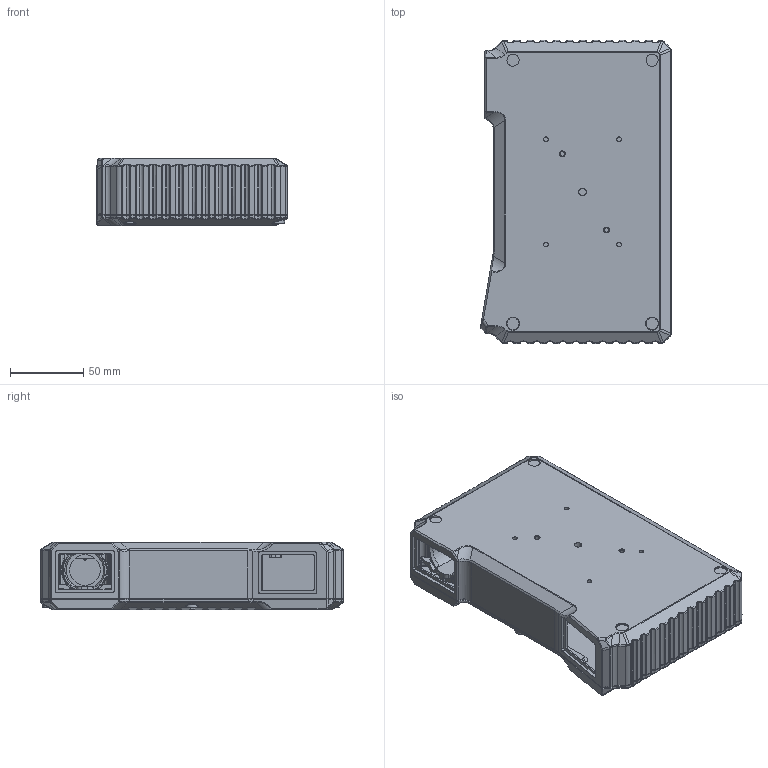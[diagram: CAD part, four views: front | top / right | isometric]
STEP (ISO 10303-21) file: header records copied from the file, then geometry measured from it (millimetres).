
FILE_DESCRIPTION((''),'2;1');
FILE_NAME('DFX809JIJIA_ASM','2024-08-23T',('Ҧ'),(''),'PRO/ENGINEER BY PARAMETRIC TECHNOLOGY CORPORATION, 2010280','PRO/ENGINEER BY PARAMETRIC TECHNOLOGY CORPORATION, 2010280','');
FILE_SCHEMA(('CONFIG_CONTROL_DESIGN'));
Products named in the file (7): 809; 809BEIBAN; 809-43; 808HUAN; 809-KA; 808S; DFX809JIJIA_ASM
Assembly tree (6 placements, depth 2):
  DFX809JIJIA_ASM
    809
    809BEIBAN
    809-43
    808HUAN
    809-KA
    808S
Bounding box: 130.45 x 207 x 46.05 mm (x, y, z)
Volume: 289259.5 mm3; surface area: 186131 mm2
Topology: 6 solids, 6 shells, 2854 faces, 6974 edges, 4193 vertices
Faces by surface type: plane 1246, cylinder 752, cone 456, bspline 336, torus 58, sphere 6
Entity records: 93284 total; most frequent: CARTESIAN_POINT 28227, ORIENTED_EDGE 13932, DIRECTION 12808, EDGE_CURVE 6966, AXIS2_PLACEMENT_3D 4322, VERTEX_POINT 4193, VECTOR 4164, LINE 4164
